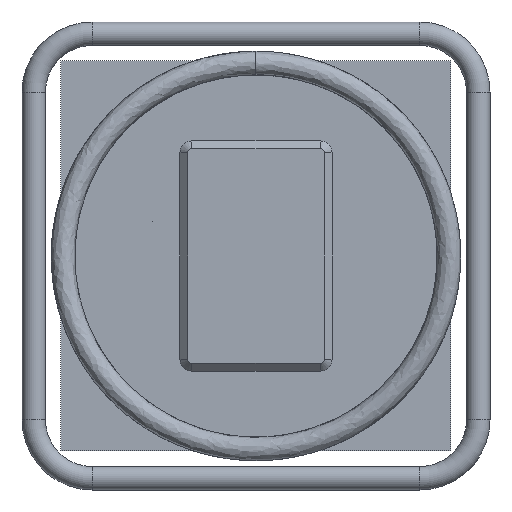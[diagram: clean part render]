
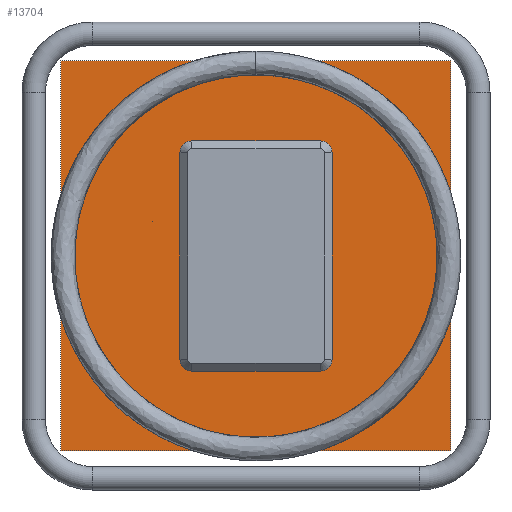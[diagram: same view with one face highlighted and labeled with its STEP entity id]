
A CAD part, front view. The second image highlights one B-rep face of the part: STEP entity #13704.
In plain terms, the highlighted planar face has unit normal (0, -1, 0).
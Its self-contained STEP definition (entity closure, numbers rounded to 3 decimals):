
#1141=LINE('',#26296,#2292);
#1144=LINE('',#26307,#2295);
#1148=LINE('',#26319,#2299);
#1152=LINE('',#26331,#2303);
#1159=LINE('',#26348,#2310);
#1160=LINE('',#26350,#2311);
#1161=LINE('',#26352,#2312);
#1162=LINE('',#26353,#2313);
#2292=VECTOR('',#16033,66.);
#2295=VECTOR('',#16044,106.);
#2299=VECTOR('',#16056,66.);
#2303=VECTOR('',#16068,106.);
#2310=VECTOR('',#16091,200.);
#2311=VECTOR('',#16092,200.);
#2312=VECTOR('',#16093,200.);
#2313=VECTOR('',#16094,200.);
#3689=PLANE('',#14126);
#3776=FACE_BOUND('',#5283,.T.);
#4485=FACE_OUTER_BOUND('',#5282,.T.);
#5282=EDGE_LOOP('',(#12196,#12197,#12198,#12199));
#5283=EDGE_LOOP('',(#12200,#12201,#12202,#12203,#12204,#12205,#12206,#12207));
#5352=CIRCLE('',#14108,6.);
#5354=CIRCLE('',#14112,6.);
#5356=CIRCLE('',#14116,6.);
#5358=CIRCLE('',#14120,6.);
#6602=VERTEX_POINT('',#26289);
#6605=VERTEX_POINT('',#26294);
#6607=VERTEX_POINT('',#26299);
#6609=VERTEX_POINT('',#26305);
#6611=VERTEX_POINT('',#26311);
#6613=VERTEX_POINT('',#26317);
#6615=VERTEX_POINT('',#26323);
#6617=VERTEX_POINT('',#26329);
#6618=VERTEX_POINT('',#26346);
#6619=VERTEX_POINT('',#26347);
#6620=VERTEX_POINT('',#26349);
#6621=VERTEX_POINT('',#26351);
#8463=EDGE_CURVE('',#6605,#6602,#1141,.T.);
#8465=EDGE_CURVE('',#6607,#6605,#5352,.T.);
#8468=EDGE_CURVE('',#6609,#6607,#1144,.T.);
#8471=EDGE_CURVE('',#6611,#6609,#5354,.T.);
#8474=EDGE_CURVE('',#6613,#6611,#1148,.T.);
#8477=EDGE_CURVE('',#6615,#6613,#5356,.T.);
#8480=EDGE_CURVE('',#6617,#6615,#1152,.T.);
#8482=EDGE_CURVE('',#6602,#6617,#5358,.T.);
#8489=EDGE_CURVE('',#6618,#6619,#1159,.T.);
#8490=EDGE_CURVE('',#6620,#6618,#1160,.T.);
#8491=EDGE_CURVE('',#6621,#6620,#1161,.T.);
#8492=EDGE_CURVE('',#6619,#6621,#1162,.T.);
#12196=ORIENTED_EDGE('',*,*,#8489,.F.);
#12197=ORIENTED_EDGE('',*,*,#8490,.F.);
#12198=ORIENTED_EDGE('',*,*,#8491,.F.);
#12199=ORIENTED_EDGE('',*,*,#8492,.F.);
#12200=ORIENTED_EDGE('',*,*,#8463,.F.);
#12201=ORIENTED_EDGE('',*,*,#8465,.F.);
#12202=ORIENTED_EDGE('',*,*,#8468,.F.);
#12203=ORIENTED_EDGE('',*,*,#8471,.F.);
#12204=ORIENTED_EDGE('',*,*,#8474,.F.);
#12205=ORIENTED_EDGE('',*,*,#8477,.F.);
#12206=ORIENTED_EDGE('',*,*,#8480,.F.);
#12207=ORIENTED_EDGE('',*,*,#8482,.F.);
#13704=ADVANCED_FACE('',(#4485,#3776),#3689,.F.);
#14108=AXIS2_PLACEMENT_3D('',#26301,#16037,#16038);
#14112=AXIS2_PLACEMENT_3D('',#26313,#16049,#16050);
#14116=AXIS2_PLACEMENT_3D('',#26325,#16061,#16062);
#14120=AXIS2_PLACEMENT_3D('',#26334,#16072,#16073);
#14126=AXIS2_PLACEMENT_3D('',#26345,#16089,#16090);
#16033=DIRECTION('',(-1.,0.,0.));
#16037=DIRECTION('center_axis',(0.,-1.,0.));
#16038=DIRECTION('ref_axis',(1.,0.,0.));
#16044=DIRECTION('',(0.,0.,1.));
#16049=DIRECTION('center_axis',(0.,-1.,0.));
#16050=DIRECTION('ref_axis',(0.,0.,-1.));
#16056=DIRECTION('',(1.,0.,0.));
#16061=DIRECTION('center_axis',(0.,-1.,0.));
#16062=DIRECTION('ref_axis',(-1.,0.,0.));
#16068=DIRECTION('',(0.,0.,-1.));
#16072=DIRECTION('center_axis',(0.,-1.,0.));
#16073=DIRECTION('ref_axis',(0.,0.,1.));
#16089=DIRECTION('center_axis',(0.,1.,0.));
#16090=DIRECTION('ref_axis',(0.,0.,1.));
#16091=DIRECTION('',(-1.,0.,0.));
#16092=DIRECTION('',(0.,0.,-1.));
#16093=DIRECTION('',(1.,0.,0.));
#16094=DIRECTION('',(0.,0.,1.));
#26289=CARTESIAN_POINT('',(-33.,0.,59.));
#26294=CARTESIAN_POINT('',(33.,0.,59.));
#26296=CARTESIAN_POINT('',(-16.5,0.,59.));
#26299=CARTESIAN_POINT('',(39.,0.,53.));
#26301=CARTESIAN_POINT('Origin',(33.,0.,53.));
#26305=CARTESIAN_POINT('',(39.,0.,-53.));
#26307=CARTESIAN_POINT('',(39.,0.,26.5));
#26311=CARTESIAN_POINT('',(33.,0.,-59.));
#26313=CARTESIAN_POINT('Origin',(33.,0.,-53.));
#26317=CARTESIAN_POINT('',(-33.,0.,-59.));
#26319=CARTESIAN_POINT('',(16.5,0.,-59.));
#26323=CARTESIAN_POINT('',(-39.,0.,-53.));
#26325=CARTESIAN_POINT('Origin',(-33.,0.,-53.));
#26329=CARTESIAN_POINT('',(-39.,0.,53.));
#26331=CARTESIAN_POINT('',(-39.,0.,-26.5));
#26334=CARTESIAN_POINT('Origin',(-33.,0.,53.));
#26345=CARTESIAN_POINT('Origin',(0.,0.,0.));
#26346=CARTESIAN_POINT('',(100.,0.,-100.));
#26347=CARTESIAN_POINT('',(-100.,0.,-100.));
#26348=CARTESIAN_POINT('',(100.,0.,-100.));
#26349=CARTESIAN_POINT('',(100.,0.,100.));
#26350=CARTESIAN_POINT('',(100.,0.,100.));
#26351=CARTESIAN_POINT('',(-100.,0.,100.));
#26352=CARTESIAN_POINT('',(-100.,0.,100.));
#26353=CARTESIAN_POINT('',(-100.,0.,-100.));
